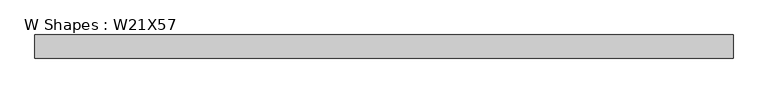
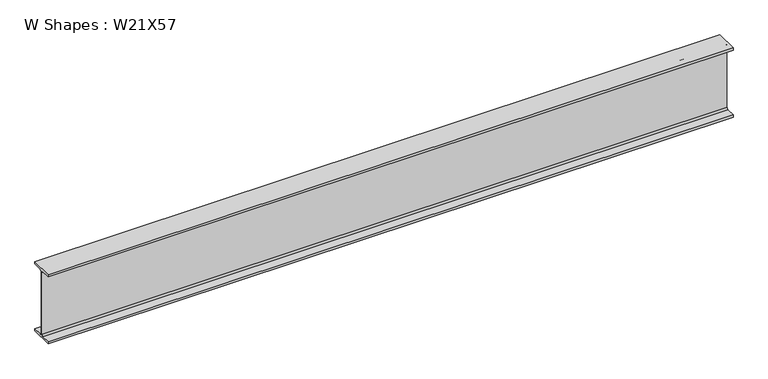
"""IFC4 building model written with IfcOpenShell, lengths in millimetres: beam geometry, W Shapes : W21X57."""

from ifc_helpers import new_model, si_unit, point, frame, frame_2d, origin, place, context, project, spatial, polyline, circle_curve, trimmed, segment, composite_curve, outline, extrude, source, transform, mapped, element, save


def w_shapes_w21x57_2a2f9a4d(model_context):
    return source(origin(), model_context, "Body", "SweptSolid", [
        extrude(outline(composite_curve([segment(polyline([(83.312, -251.46), (83.312, -267.97), (-83.312, -267.97), (-83.312, -251.46), (-17.907, -251.46)]), True, "CONTINUOUS"), segment(trimmed(circle_curve(frame_2d((-17.907, -238.76)), 12.7), [point((-17.907, -251.46))], [point((-5.207, -238.76))], True, "CARTESIAN"), True, "CONTINUOUS"), segment(polyline([(-5.207, -238.76), (-5.207, 238.76)]), True, "CONTINUOUS"), segment(trimmed(circle_curve(frame_2d((-17.907, 238.76)), 12.7), [point((-5.207, 238.76))], [point((-17.907, 251.46))], True, "CARTESIAN"), True, "CONTINUOUS"), segment(polyline([(-17.907, 251.46), (-83.312, 251.46), (-83.312, 267.97), (83.312, 267.97), (83.312, 251.46), (17.907, 251.46)]), True, "CONTINUOUS"), segment(trimmed(circle_curve(frame_2d((17.907, 238.76)), 12.7), [point((17.907, 251.46))], [point((5.207, 238.76))], True, "CARTESIAN"), True, "CONTINUOUS"), segment(polyline([(5.207, 238.76), (5.207, -238.76)]), True, "CONTINUOUS"), segment(trimmed(circle_curve(frame_2d((17.907, -238.76)), 12.7), [point((5.207, -238.76))], [point((17.907, -251.46))], True, "CARTESIAN"), True, "CONTINUOUS"), segment(polyline([(17.907, -251.46), (83.312, -251.46)]), True, "CONTINUOUS")], self_intersect=False)), frame((-2474.5171424, 0.0, 0.0), z_axis=(1.0, 0.0, 0.0), x_axis=(0.0, 1.0, 0.0)), (0.0, 0.0, 1.0), 5023.8568363),
    ])


if __name__ == "__main__":
    model = new_model("IFC4")
    model_context = context("Model", 3, world=origin())
    ifc_project = project(units=[si_unit("LENGTHUNIT", "METRE", prefix="MILLI")], contexts=[model_context])
    site = spatial("IfcSite", under=ifc_project)
    building = spatial("IfcBuilding", under=site)
    placement = place(None, origin())
    w_shapes_w21x57_shape = w_shapes_w21x57_2a2f9a4d(model_context)
    element("IfcBeam", 1, ObjectType="W Shapes : W21X57", at=placement, inside=building, context=model_context, shape_type="MappedRepresentation", body=[
        mapped(w_shapes_w21x57_shape, transform((0.0, 0.0, 0.0), x_axis=(1.0, 0.0, 0.0), y_axis=(0.0, 1.0, 0.0), z_axis=(0.0, 0.0, 1.0))),
    ])
    save(model, "model.ifc")
